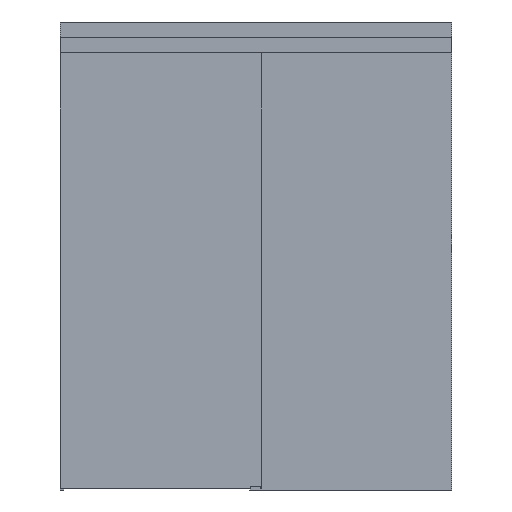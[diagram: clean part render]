
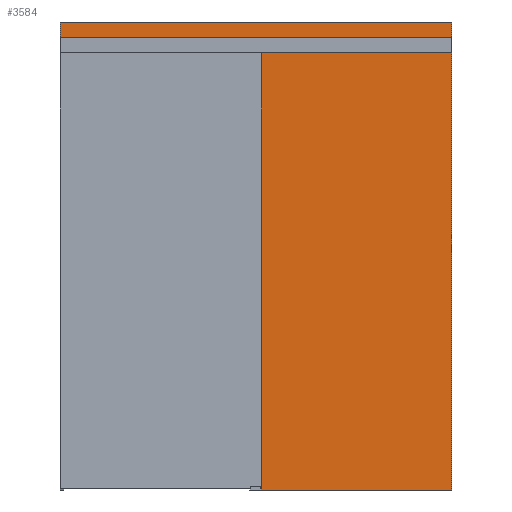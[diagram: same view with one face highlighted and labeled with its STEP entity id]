
A CAD part, front view. The second image highlights one B-rep face of the part: STEP entity #3584.
In plain terms, the highlighted planar face has unit normal (0, -1, 0).
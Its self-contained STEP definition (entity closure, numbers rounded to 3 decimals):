
#3584=ADVANCED_FACE('',(#7289),#7290,.T.);
#7289=FACE_OUTER_BOUND('',#11024,.T.);
#7290=PLANE('',#11025);
#11024=EDGE_LOOP('',(#20780,#20781,#20782,#20783,#20784,#20785,#20786,#20787));
#11025=AXIS2_PLACEMENT_3D('',#20788,#20789,#20790);
#20780=ORIENTED_EDGE('',*,*,#25814,.F.);
#20781=ORIENTED_EDGE('',*,*,#25812,.F.);
#20782=ORIENTED_EDGE('',*,*,#25808,.T.);
#20783=ORIENTED_EDGE('',*,*,#25806,.T.);
#20784=ORIENTED_EDGE('',*,*,#25803,.F.);
#20785=ORIENTED_EDGE('',*,*,#25800,.T.);
#20786=ORIENTED_EDGE('',*,*,#25797,.T.);
#20787=ORIENTED_EDGE('',*,*,#25784,.F.);
#20788=CARTESIAN_POINT('',(0.,30.,2400.0));
#20789=DIRECTION('',(0.0,-1.0,0.0));
#20790=DIRECTION('',(0.0,0.0,-1.0));
#25784=EDGE_CURVE('',#31639,#31642,#31643,.T.);
#25797=EDGE_CURVE('',#31662,#31642,#31664,.T.);
#25800=EDGE_CURVE('',#31666,#31662,#31668,.T.);
#25803=EDGE_CURVE('',#31666,#31670,#31672,.T.);
#25806=EDGE_CURVE('',#31674,#31670,#31676,.T.);
#25808=EDGE_CURVE('',#31678,#31674,#31679,.T.);
#25812=EDGE_CURVE('',#31678,#31682,#31684,.T.);
#25814=EDGE_CURVE('',#31682,#31639,#31686,.T.);
#31639=VERTEX_POINT('',#39646);
#31642=VERTEX_POINT('',#39650);
#31643=LINE('',#39651,#39652);
#31662=VERTEX_POINT('',#39680);
#31664=LINE('',#39683,#39684);
#31666=VERTEX_POINT('',#39686);
#31668=LINE('',#39689,#39690);
#31670=VERTEX_POINT('',#39692);
#31672=LINE('',#39695,#39696);
#31674=VERTEX_POINT('',#39698);
#31676=LINE('',#39701,#39702);
#31678=VERTEX_POINT('',#39704);
#31679=LINE('',#39705,#39706);
#31682=VERTEX_POINT('',#39710);
#31684=LINE('',#39713,#39714);
#31686=LINE('',#39716,#39717);
#39646=CARTESIAN_POINT('',(0.,30.,2448.0));
#39650=CARTESIAN_POINT('',(2050.0,30.,2448.0));
#39651=CARTESIAN_POINT('',(0.,30.,2448.0));
#39652=VECTOR('',#45209,1.0);
#39680=CARTESIAN_POINT('',(2050.0,30.,0.0));
#39683=CARTESIAN_POINT('',(2050.0,30.,7.0));
#39684=VECTOR('',#45220,1.0);
#39686=CARTESIAN_POINT('',(993.0,30.,0.0));
#39689=CARTESIAN_POINT('',(1327.5,30.,0.0));
#39690=VECTOR('',#45222,1.0);
#39692=CARTESIAN_POINT('',(993.0,30.,2288.0));
#39695=CARTESIAN_POINT('',(993.0,30.,7.0));
#39696=VECTOR('',#45224,1.0);
#39698=CARTESIAN_POINT('',(20.,30.,2288.0));
#39701=CARTESIAN_POINT('',(0.,30.,2288.0));
#39702=VECTOR('',#45226,1.0);
#39704=CARTESIAN_POINT('',(20.,30.,0.0));
#39705=CARTESIAN_POINT('',(20.,30.,0.0));
#39706=VECTOR('',#45227,1.0);
#39710=CARTESIAN_POINT('',(0.,30.,0.0));
#39713=CARTESIAN_POINT('',(20.,30.,0.0));
#39714=VECTOR('',#45230,1.0);
#39716=CARTESIAN_POINT('',(0.,30.,1812.0));
#39717=VECTOR('',#45231,1.0);
#45209=DIRECTION('',(1.0,0.0,0.0));
#45220=DIRECTION('',(0.0,0.0,1.0));
#45222=DIRECTION('',(1.0,0.0,0.0));
#45224=DIRECTION('',(0.0,0.0,1.0));
#45226=DIRECTION('',(1.0,0.0,0.0));
#45227=DIRECTION('',(0.0,0.0,1.0));
#45230=DIRECTION('',(-1.0,0.0,0.0));
#45231=DIRECTION('',(0.0,0.0,1.0));
